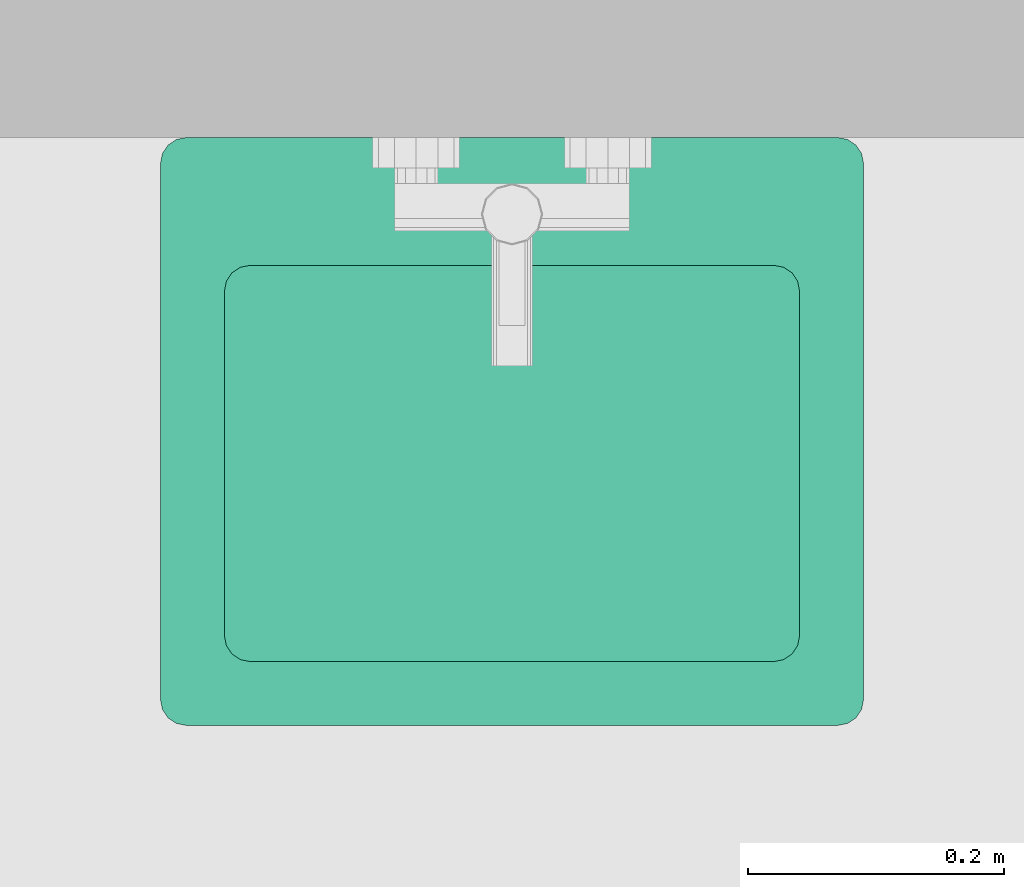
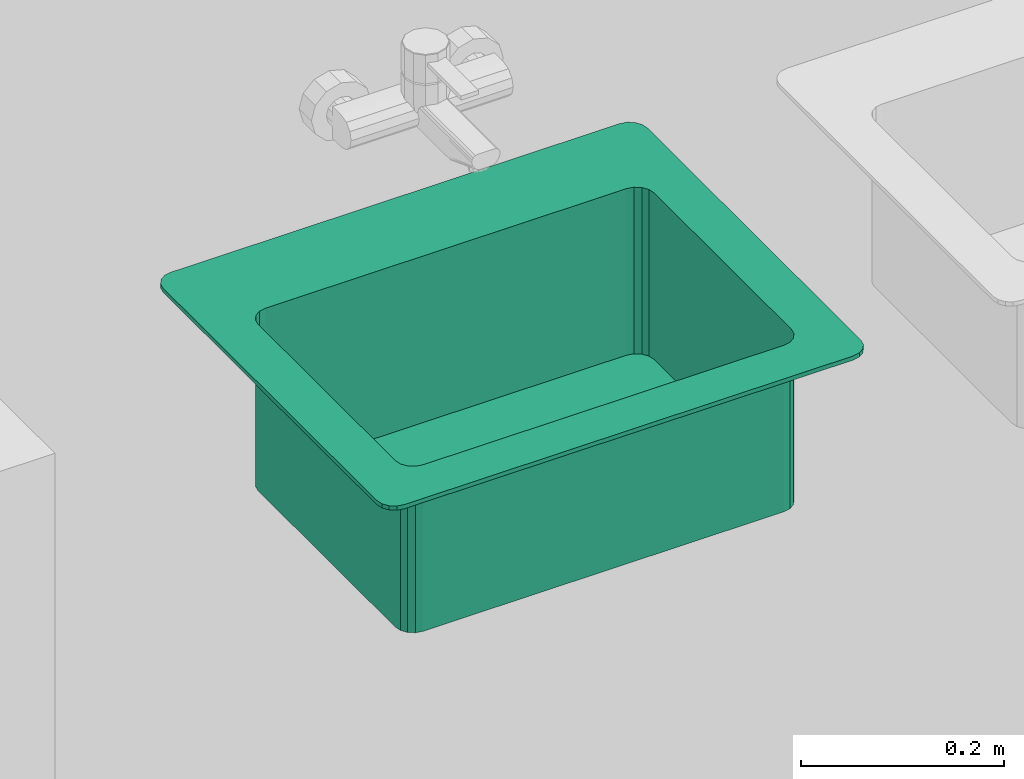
# One storey, part 254 of 301: 1 flow terminal.
"""IFC2X3 building model written with IfcOpenShell, lengths in millimetres."""

from ifc_helpers import new_model, entity, si_unit, converted_unit, derived_unit, money_unit, direction, frame, origin_with_axes, place, context, subcontext, project, spatial, open_shell, faceted_brep, surface_model, source, transform, mapped, type_object, element, save


model = new_model("IFC2X3")

# Units and contexts
model_context = context("Model", 3, precision=0.01, world=origin_with_axes(), true_north=direction((0.0, 1.0)))
body_context = subcontext(model_context, "Body", "Model", "MODEL_VIEW")
ifc_project = project(units=[si_unit("LENGTHUNIT", "METRE", prefix="MILLI"), si_unit("AREAUNIT", "SQUARE_METRE"), si_unit("VOLUMEUNIT", "CUBIC_METRE"), converted_unit("PLANEANGLEUNIT", "DEGREE", entity("IfcPlaneAngleMeasure", 0.0174532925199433), si_unit("PLANEANGLEUNIT", "RADIAN"), dimensions=[0, 0, 0, 0, 0, 0, 0]), money_unit("EUR"), converted_unit("TIMEUNIT", "Year", entity("IfcTimeMeasure", 31557600.0), si_unit("TIMEUNIT", "SECOND"), dimensions=[0, 0, 1, 0, 0, 0, 0]), si_unit("MASSUNIT", "GRAM", prefix="KILO"), si_unit("THERMODYNAMICTEMPERATUREUNIT", "DEGREE_CELSIUS"), si_unit("LUMINOUSINTENSITYUNIT", "LUMEN"), si_unit("ENERGYUNIT", "JOULE", prefix="MEGA"), derived_unit("THERMALCONDUCTANCEUNIT", [(si_unit("POWERUNIT", "WATT"), 1), (si_unit("LENGTHUNIT", "METRE"), -1), (si_unit("THERMODYNAMICTEMPERATUREUNIT", "KELVIN"), -1)]), derived_unit("SPECIFICHEATCAPACITYUNIT", [(si_unit("ENERGYUNIT", "JOULE"), 1), (si_unit("MASSUNIT", "GRAM", prefix="KILO"), -1), (si_unit("THERMODYNAMICTEMPERATUREUNIT", "KELVIN"), -1)]), derived_unit("MASSDENSITYUNIT", [(si_unit("MASSUNIT", "GRAM", prefix="KILO"), 1), (si_unit("VOLUMEUNIT", "CUBIC_METRE"), -1)])], contexts=[model_context])

# Site, building, storey
site_placement = place(None, frame((0.0, 0.0, 8650.0), z_axis=(0.0, 0.0, 1.0), x_axis=(1.0, 0.0, 0.0)))
site = spatial("IfcSite", under=ifc_project, at=site_placement, Name="43301:001:0844", CompositionType="ELEMENT")
building_placement = place(site_placement, origin_with_axes())
building = spatial("IfcBuilding", under=site, at=building_placement, Name="Kuressaare Ametikooli tuulikute mehaanikute õppekorpus", CompositionType="ELEMENT")
storey_placement = place(building_placement, origin_with_axes())
storey = spatial("IfcBuildingStorey", under=building, at=storey_placement, Name="1.korrus", CompositionType="ELEMENT", Elevation=0.0)

# Flow terminal
sanitary_terminal_type = type_object("IfcSanitaryTerminalType", Name="Sink General 27", PredefinedType="NOTDEFINED")
shared_shape = source(origin_with_axes(), body_context, "Body", "SurfaceModel", [
    surface_model("IfcShellBasedSurfaceModel", [(-70.0, 50.0, 705.0), (-70.0, 50.0, 899.9999999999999), (-479.9999999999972, 50.0, 899.9999999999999), (-479.9999999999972, 50.0, 705.0), (-62.34633135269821, 51.52240934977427, 705.0), (-62.34633135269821, 51.52240934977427, 899.9999999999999), (-487.6536686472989, 51.52240934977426, 899.9999999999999), (-487.6536686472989, 51.52240934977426, 705.0), (-494.1421356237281, 55.85786437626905, 705.0), (-498.4775906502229, 62.3463313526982, 705.0), (-499.9999999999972, 70.0, 705.0), (-499.9999999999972, 340.0000000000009, 705.0), (-498.4775906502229, 347.6536686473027, 705.0), (-494.1421356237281, 354.1421356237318, 705.0), (-487.653668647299, 358.4775906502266, 705.0), (-479.9999999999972, 360.0000000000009, 705.0), (-70.0, 360.0000000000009, 705.0), (-62.34633135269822, 358.4775906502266, 705.0), (-55.85786437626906, 354.1421356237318, 705.0), (-51.52240934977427, 347.6536686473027, 705.0), (-50.0, 340.0000000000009, 705.0), (-50.0, 70.0, 705.0), (-51.52240934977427, 62.34633135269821, 705.0), (-55.85786437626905, 55.85786437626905, 705.0), (-55.85786437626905, 55.85786437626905, 899.9999999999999), (-494.1421356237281, 55.85786437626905, 899.9999999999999), (-498.4775906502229, 62.3463313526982, 899.9999999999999), (-499.9999999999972, 70.0, 899.9999999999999), (-499.9999999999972, 340.0000000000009, 899.9999999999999), (-498.4775906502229, 347.6536686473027, 899.9999999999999), (-494.1421356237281, 354.1421356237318, 899.9999999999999), (-487.653668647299, 358.4775906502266, 899.9999999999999), (-479.9999999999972, 360.0000000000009, 899.9999999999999), (-70.0, 360.0000000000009, 899.9999999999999), (-62.34633135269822, 358.4775906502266, 899.9999999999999), (-55.85786437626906, 354.1421356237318, 899.9999999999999), (-51.52240934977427, 347.6536686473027, 899.9999999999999), (-50.0, 340.0000000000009, 899.9999999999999), (-50.0, 70.0, 899.9999999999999), (-51.52240934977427, 62.34633135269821, 899.9999999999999)], [open_shell([[[0, 1, 2, 3]], [[4, 5, 1, 0]], [[3, 2, 6, 7]], [[0, 3, 7, 8, 9, 10, 11, 12, 13, 14, 15, 16, 17, 18, 19, 20, 21, 22, 23, 4]], [[23, 24, 5, 4]], [[7, 6, 25, 8]], [[8, 25, 26, 9]], [[9, 26, 27, 10]], [[10, 27, 28, 11]], [[11, 28, 29, 12]], [[12, 29, 30, 13]], [[13, 30, 31, 14]], [[14, 31, 32, 15]], [[15, 32, 33, 16]], [[16, 33, 34, 17]], [[17, 34, 35, 18]], [[18, 35, 36, 19]], [[19, 36, 37, 20]], [[20, 37, 38, 21]], [[21, 38, 39, 22]], [[22, 39, 24, 23]]])]),
    faceted_brep([(-20.0, 0.0, 899.9999999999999), (-20.0, 0.0, 904.9999999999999), (-529.9999999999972, 0.0, 904.9999999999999), (-529.9999999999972, 0.0, 899.9999999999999), (-12.34633135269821, 1.522409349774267, 899.9999999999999), (-12.34633135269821, 1.522409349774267, 904.9999999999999), (-5.857864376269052, 5.857864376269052, 904.9999999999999), (-1.522409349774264, 12.34633135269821, 904.9999999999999), (0.0, 20.0, 904.9999999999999), (0.0, 440.0000000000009, 904.9999999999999), (-1.522409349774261, 447.6536686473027, 904.9999999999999), (-5.85786437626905, 454.1421356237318, 904.9999999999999), (-12.34633135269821, 458.4775906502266, 904.9999999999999), (-20.0, 460.0000000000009, 904.9999999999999), (-529.9999999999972, 460.0000000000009, 904.9999999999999), (-537.6536686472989, 458.4775906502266, 904.9999999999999), (-544.1421356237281, 454.1421356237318, 904.9999999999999), (-548.4775906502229, 447.6536686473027, 904.9999999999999), (-549.9999999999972, 440.0000000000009, 904.9999999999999), (-549.9999999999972, 20.0, 904.9999999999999), (-548.4775906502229, 12.3463313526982, 904.9999999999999), (-544.142135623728, 5.857864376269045, 904.9999999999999), (-537.6536686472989, 1.522409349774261, 904.9999999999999), (-70.0, 50.0, 904.9999999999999), (-479.9999999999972, 50.0, 904.9999999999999), (-487.6536686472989, 51.52240934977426, 904.9999999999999), (-494.1421356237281, 55.85786437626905, 904.9999999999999), (-498.4775906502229, 62.3463313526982, 904.9999999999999), (-499.9999999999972, 70.0, 904.9999999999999), (-499.9999999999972, 340.0000000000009, 904.9999999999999), (-498.4775906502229, 347.6536686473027, 904.9999999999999), (-494.1421356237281, 354.1421356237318, 904.9999999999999), (-487.653668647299, 358.4775906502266, 904.9999999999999), (-479.9999999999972, 360.0000000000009, 904.9999999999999), (-70.0, 360.0000000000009, 904.9999999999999), (-62.34633135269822, 358.4775906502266, 904.9999999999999), (-55.85786437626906, 354.1421356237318, 904.9999999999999), (-51.52240934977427, 347.6536686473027, 904.9999999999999), (-50.0, 340.0000000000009, 904.9999999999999), (-50.0, 70.0, 904.9999999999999), (-51.52240934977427, 62.34633135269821, 904.9999999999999), (-55.85786437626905, 55.85786437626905, 904.9999999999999), (-62.34633135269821, 51.52240934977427, 904.9999999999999), (-537.6536686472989, 1.522409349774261, 899.9999999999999), (-544.142135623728, 5.857864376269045, 899.9999999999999), (-548.4775906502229, 12.3463313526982, 899.9999999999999), (-549.9999999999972, 20.0, 899.9999999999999), (-549.9999999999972, 440.0000000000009, 899.9999999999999), (-548.4775906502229, 447.6536686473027, 899.9999999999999), (-544.1421356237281, 454.1421356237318, 899.9999999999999), (-537.6536686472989, 458.4775906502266, 899.9999999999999), (-529.9999999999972, 460.0000000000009, 899.9999999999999), (-20.0, 460.0000000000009, 899.9999999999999), (-12.34633135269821, 458.4775906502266, 899.9999999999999), (-5.85786437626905, 454.1421356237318, 899.9999999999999), (-1.522409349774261, 447.6536686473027, 899.9999999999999), (0.0, 440.0000000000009, 899.9999999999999), (0.0, 20.0, 899.9999999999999), (-1.522409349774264, 12.34633135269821, 899.9999999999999), (-5.857864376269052, 5.857864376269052, 899.9999999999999), (-70.0, 50.0, 899.9999999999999), (-62.34633135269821, 51.52240934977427, 899.9999999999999), (-55.85786437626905, 55.85786437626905, 899.9999999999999), (-51.52240934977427, 62.34633135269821, 899.9999999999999), (-50.0, 70.0, 899.9999999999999), (-50.0, 340.0000000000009, 899.9999999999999), (-51.52240934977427, 347.6536686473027, 899.9999999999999), (-55.85786437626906, 354.1421356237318, 899.9999999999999), (-62.34633135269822, 358.4775906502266, 899.9999999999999), (-70.0, 360.0000000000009, 899.9999999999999), (-479.9999999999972, 360.0000000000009, 899.9999999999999), (-487.653668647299, 358.4775906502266, 899.9999999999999), (-494.1421356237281, 354.1421356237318, 899.9999999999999), (-498.4775906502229, 347.6536686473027, 899.9999999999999), (-499.9999999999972, 340.0000000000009, 899.9999999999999), (-499.9999999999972, 70.0, 899.9999999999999), (-498.4775906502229, 62.3463313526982, 899.9999999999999), (-494.1421356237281, 55.85786437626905, 899.9999999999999), (-487.6536686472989, 51.52240934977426, 899.9999999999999), (-479.9999999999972, 50.0, 899.9999999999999)], [[[0, 1, 2, 3]], [[4, 5, 1, 0]], [[1, 5, 6, 7, 8, 9, 10, 11, 12, 13, 14, 15, 16, 17, 18, 19, 20, 21, 22, 2], [23, 24, 25, 26, 27, 28, 29, 30, 31, 32, 33, 34, 35, 36, 37, 38, 39, 40, 41, 42]], [[3, 2, 22, 43]], [[0, 3, 43, 44, 45, 46, 47, 48, 49, 50, 51, 52, 53, 54, 55, 56, 57, 58, 59, 4], [60, 61, 62, 63, 64, 65, 66, 67, 68, 69, 70, 71, 72, 73, 74, 75, 76, 77, 78, 79]], [[59, 6, 5, 4]], [[58, 7, 6, 59]], [[57, 8, 7, 58]], [[56, 9, 8, 57]], [[55, 10, 9, 56]], [[54, 11, 10, 55]], [[53, 12, 11, 54]], [[52, 13, 12, 53]], [[51, 14, 13, 52]], [[50, 15, 14, 51]], [[49, 16, 15, 50]], [[48, 17, 16, 49]], [[47, 18, 17, 48]], [[46, 19, 18, 47]], [[45, 20, 19, 46]], [[44, 21, 20, 45]], [[43, 22, 21, 44]], [[79, 24, 23, 60]], [[78, 25, 24, 79]], [[77, 26, 25, 78]], [[76, 27, 26, 77]], [[75, 28, 27, 76]], [[74, 29, 28, 75]], [[73, 30, 29, 74]], [[72, 31, 30, 73]], [[71, 32, 31, 72]], [[70, 33, 32, 71]], [[69, 34, 33, 70]], [[68, 35, 34, 69]], [[67, 36, 35, 68]], [[66, 37, 36, 67]], [[65, 38, 37, 66]], [[64, 39, 38, 65]], [[63, 40, 39, 64]], [[62, 41, 40, 63]], [[61, 42, 41, 62]], [[60, 23, 42, 61]]]),
])
flow_terminal_placement = place(storey_placement, frame((106730.5124300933, 17304.79956493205, 0.0), z_axis=(0.0, 0.0, 1.0), x_axis=(1.0, 0.0, 0.0)))
element("IfcFlowTerminal", 1, at=flow_terminal_placement, inside=storey, type_object=sanitary_terminal_type, Name="V3", context=body_context, shape_type="MappedRepresentation", body=[
    mapped(shared_shape, transform((0.0, 0.0, 0.0))),
])

save(model, "model.ifc")
